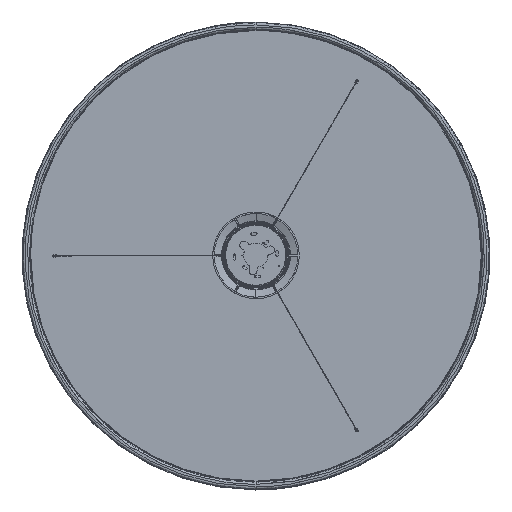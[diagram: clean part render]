
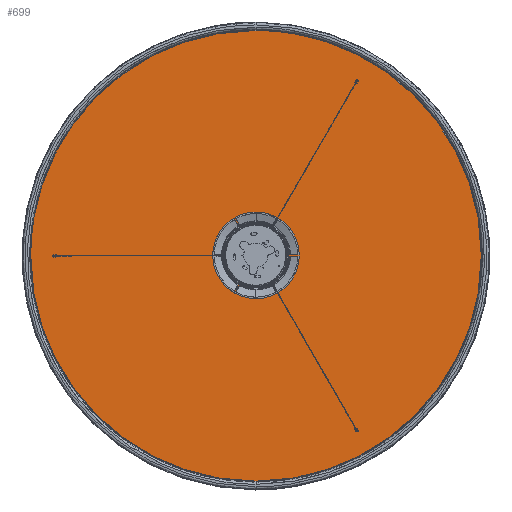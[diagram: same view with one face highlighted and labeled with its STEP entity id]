
A CAD part, top view. The second image highlights one B-rep face of the part: STEP entity #699.
In plain terms, the highlighted planar face has unit normal (0, 0, 1).
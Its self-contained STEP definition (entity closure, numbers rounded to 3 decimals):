
#122=FACE_BOUND('',#1954,.T.);
#123=FACE_BOUND('',#1955,.T.);
#124=FACE_BOUND('',#1956,.T.);
#699=ADVANCED_FACE('',(#1284,#122,#123,#124),#9223,.T.);
#1284=FACE_OUTER_BOUND('',#1953,.T.);
#1953=EDGE_LOOP('',(#4750,#4751,#4752,#4753));
#1954=EDGE_LOOP('',(#4754,#4755,#4756,#4757));
#1955=EDGE_LOOP('',(#4758,#4759,#4760,#4761));
#1956=EDGE_LOOP('',(#4762,#4763,#4764,#4765));
#4750=ORIENTED_EDGE('',*,*,#6244,.T.);
#4751=ORIENTED_EDGE('',*,*,#6274,.T.);
#4752=ORIENTED_EDGE('',*,*,#6245,.F.);
#4753=ORIENTED_EDGE('',*,*,#6248,.F.);
#4754=ORIENTED_EDGE('',*,*,#6257,.T.);
#4755=ORIENTED_EDGE('',*,*,#6260,.T.);
#4756=ORIENTED_EDGE('',*,*,#6250,.T.);
#4757=ORIENTED_EDGE('',*,*,#6253,.T.);
#4758=ORIENTED_EDGE('',*,*,#6234,.T.);
#4759=ORIENTED_EDGE('',*,*,#6237,.F.);
#4760=ORIENTED_EDGE('',*,*,#6241,.T.);
#4761=ORIENTED_EDGE('',*,*,#6238,.F.);
#4762=ORIENTED_EDGE('',*,*,#6269,.T.);
#4763=ORIENTED_EDGE('',*,*,#6272,.T.);
#4764=ORIENTED_EDGE('',*,*,#6263,.T.);
#4765=ORIENTED_EDGE('',*,*,#6266,.T.);
#6234=EDGE_CURVE('',#8626,#8625,#7723,.T.);
#6237=EDGE_CURVE('',#8627,#8625,#7006,.T.);
#6238=EDGE_CURVE('',#8626,#8628,#7007,.T.);
#6241=EDGE_CURVE('',#8627,#8628,#7725,.T.);
#6244=EDGE_CURVE('',#8634,#8642,#7728,.T.);
#6245=EDGE_CURVE('',#8640,#8633,#7729,.T.);
#6248=EDGE_CURVE('',#8634,#8640,#7731,.T.);
#6250=EDGE_CURVE('',#8630,#8631,#7733,.T.);
#6253=EDGE_CURVE('',#8631,#8632,#7012,.T.);
#6257=EDGE_CURVE('',#8632,#8629,#7735,.T.);
#6260=EDGE_CURVE('',#8629,#8630,#7017,.T.);
#6263=EDGE_CURVE('',#8636,#8637,#7737,.T.);
#6266=EDGE_CURVE('',#8637,#8638,#7021,.T.);
#6269=EDGE_CURVE('',#8638,#8635,#7739,.T.);
#6272=EDGE_CURVE('',#8635,#8636,#7025,.T.);
#6274=EDGE_CURVE('',#8642,#8633,#7740,.T.);
#7006=B_SPLINE_CURVE_WITH_KNOTS('',1,(#30126,#30127),.UNSPECIFIED.,.F.,
 .F.,(2,2),(-4.,0.),.UNSPECIFIED.);
#7007=B_SPLINE_CURVE_WITH_KNOTS('',1,(#30128,#30129),.UNSPECIFIED.,.F.,
 .F.,(2,2),(-4.,0.),.UNSPECIFIED.);
#7012=B_SPLINE_CURVE_WITH_KNOTS('',1,(#30176,#30177),.UNSPECIFIED.,.F.,
 .F.,(2,2),(0.,4.),.UNSPECIFIED.);
#7017=B_SPLINE_CURVE_WITH_KNOTS('',1,(#30196,#30197),.UNSPECIFIED.,.F.,
 .F.,(2,2),(0.,4.),.UNSPECIFIED.);
#7021=B_SPLINE_CURVE_WITH_KNOTS('',1,(#30214,#30215),.UNSPECIFIED.,.F.,
 .F.,(2,2),(0.,4.),.UNSPECIFIED.);
#7025=B_SPLINE_CURVE_WITH_KNOTS('',1,(#30232,#30233),.UNSPECIFIED.,.F.,
 .F.,(2,2),(0.,4.),.UNSPECIFIED.);
#7723=(
BOUNDED_CURVE()
B_SPLINE_CURVE(2,(#30117,#30118,#30119,#30120,#30121),.UNSPECIFIED.,.F.,
 .F.)
B_SPLINE_CURVE_WITH_KNOTS((3,2,3),(-7.854,-3.927,
0.),.UNSPECIFIED.)
CURVE()
GEOMETRIC_REPRESENTATION_ITEM()
RATIONAL_B_SPLINE_CURVE((1.,0.707,1.,0.707,1.))
REPRESENTATION_ITEM('')
);
#7725=(
BOUNDED_CURVE()
B_SPLINE_CURVE(2,(#30137,#30138,#30139,#30140,#30141),.UNSPECIFIED.,.F.,
 .F.)
B_SPLINE_CURVE_WITH_KNOTS((3,2,3),(-7.854,-3.927,
0.),.UNSPECIFIED.)
CURVE()
GEOMETRIC_REPRESENTATION_ITEM()
RATIONAL_B_SPLINE_CURVE((1.,0.707,1.,0.707,1.))
REPRESENTATION_ITEM('')
);
#7728=(
BOUNDED_CURVE()
B_SPLINE_CURVE(2,(#30148,#30149,#30150),.UNSPECIFIED.,.F.,.F.)
B_SPLINE_CURVE_WITH_KNOTS((3,3),(1471.836,2207.754),
 .UNSPECIFIED.)
CURVE()
GEOMETRIC_REPRESENTATION_ITEM()
RATIONAL_B_SPLINE_CURVE((1.,0.707,1.))
REPRESENTATION_ITEM('')
);
#7729=(
BOUNDED_CURVE()
B_SPLINE_CURVE(2,(#30151,#30152,#30153),.UNSPECIFIED.,.F.,.F.)
B_SPLINE_CURVE_WITH_KNOTS((3,3),(-735.918,0.),.UNSPECIFIED.)
CURVE()
GEOMETRIC_REPRESENTATION_ITEM()
RATIONAL_B_SPLINE_CURVE((1.,0.707,1.))
REPRESENTATION_ITEM('')
);
#7731=(
BOUNDED_CURVE()
B_SPLINE_CURVE(2,(#30159,#30160,#30161),.UNSPECIFIED.,.F.,.F.)
B_SPLINE_CURVE_WITH_KNOTS((3,3),(-1471.836,-735.918),
 .UNSPECIFIED.)
CURVE()
GEOMETRIC_REPRESENTATION_ITEM()
RATIONAL_B_SPLINE_CURVE((1.,0.707,1.))
REPRESENTATION_ITEM('')
);
#7733=(
BOUNDED_CURVE()
B_SPLINE_CURVE(2,(#30167,#30168,#30169,#30170,#30171),.UNSPECIFIED.,.F.,
 .F.)
B_SPLINE_CURVE_WITH_KNOTS((3,2,3),(-7.854,-3.927,
0.),.UNSPECIFIED.)
CURVE()
GEOMETRIC_REPRESENTATION_ITEM()
RATIONAL_B_SPLINE_CURVE((1.,0.707,1.,0.707,1.))
REPRESENTATION_ITEM('')
);
#7735=(
BOUNDED_CURVE()
B_SPLINE_CURVE(2,(#30187,#30188,#30189,#30190,#30191),.UNSPECIFIED.,.F.,
 .F.)
B_SPLINE_CURVE_WITH_KNOTS((3,2,3),(-7.854,-3.927,
0.),.UNSPECIFIED.)
CURVE()
GEOMETRIC_REPRESENTATION_ITEM()
RATIONAL_B_SPLINE_CURVE((1.,0.707,1.,0.707,1.))
REPRESENTATION_ITEM('')
);
#7737=(
BOUNDED_CURVE()
B_SPLINE_CURVE(2,(#30205,#30206,#30207,#30208,#30209),.UNSPECIFIED.,.F.,
 .F.)
B_SPLINE_CURVE_WITH_KNOTS((3,2,3),(-7.854,-3.927,
0.),.UNSPECIFIED.)
CURVE()
GEOMETRIC_REPRESENTATION_ITEM()
RATIONAL_B_SPLINE_CURVE((1.,0.707,1.,0.707,1.))
REPRESENTATION_ITEM('')
);
#7739=(
BOUNDED_CURVE()
B_SPLINE_CURVE(2,(#30223,#30224,#30225,#30226,#30227),.UNSPECIFIED.,.F.,
 .F.)
B_SPLINE_CURVE_WITH_KNOTS((3,2,3),(-7.854,-3.927,
0.),.UNSPECIFIED.)
CURVE()
GEOMETRIC_REPRESENTATION_ITEM()
RATIONAL_B_SPLINE_CURVE((1.,0.707,1.,0.707,1.))
REPRESENTATION_ITEM('')
);
#7740=(
BOUNDED_CURVE()
B_SPLINE_CURVE(2,(#30236,#30237,#30238),.UNSPECIFIED.,.F.,.F.)
B_SPLINE_CURVE_WITH_KNOTS((3,3),(2207.754,2943.672),
 .UNSPECIFIED.)
CURVE()
GEOMETRIC_REPRESENTATION_ITEM()
RATIONAL_B_SPLINE_CURVE((1.,0.707,1.))
REPRESENTATION_ITEM('')
);
#8625=VERTEX_POINT('',#30088);
#8626=VERTEX_POINT('',#30089);
#8627=VERTEX_POINT('',#30090);
#8628=VERTEX_POINT('',#30091);
#8629=VERTEX_POINT('',#30092);
#8630=VERTEX_POINT('',#30093);
#8631=VERTEX_POINT('',#30094);
#8632=VERTEX_POINT('',#30095);
#8633=VERTEX_POINT('',#30096);
#8634=VERTEX_POINT('',#30097);
#8635=VERTEX_POINT('',#30098);
#8636=VERTEX_POINT('',#30099);
#8637=VERTEX_POINT('',#30100);
#8638=VERTEX_POINT('',#30101);
#8640=VERTEX_POINT('',#30103);
#8642=VERTEX_POINT('',#30105);
#9223=PLANE('',#9485);
#9485=AXIS2_PLACEMENT_3D('',#29977,#9663,$);
#9663=DIRECTION('',(0.,0.,1.));
#29977=CARTESIAN_POINT('',(562.212,558.012,234.2));
#30088=CARTESIAN_POINT('',(-420.,-1.7,234.2));
#30089=CARTESIAN_POINT('',(-420.,-6.7,234.2));
#30090=CARTESIAN_POINT('',(-416.,-1.7,234.2));
#30091=CARTESIAN_POINT('',(-416.,-6.7,234.2));
#30092=CARTESIAN_POINT('',(207.835,-369.181,234.2));
#30093=CARTESIAN_POINT('',(205.835,-365.717,234.2));
#30094=CARTESIAN_POINT('',(210.165,-363.217,234.2));
#30095=CARTESIAN_POINT('',(212.165,-366.681,234.2));
#30096=CARTESIAN_POINT('',(-468.5,-4.2,234.2));
#30097=CARTESIAN_POINT('',(468.5,-4.2,234.2));
#30098=CARTESIAN_POINT('',(212.165,358.281,234.2));
#30099=CARTESIAN_POINT('',(210.165,354.817,234.2));
#30100=CARTESIAN_POINT('',(205.835,357.317,234.2));
#30101=CARTESIAN_POINT('',(207.835,360.781,234.2));
#30103=CARTESIAN_POINT('',(0.,-472.7,234.2));
#30105=CARTESIAN_POINT('',(0.,464.3,234.2));
#30117=CARTESIAN_POINT('',(-420.,-6.7,234.2));
#30118=CARTESIAN_POINT('',(-422.5,-6.7,234.2));
#30119=CARTESIAN_POINT('',(-422.5,-4.2,234.2));
#30120=CARTESIAN_POINT('',(-422.5,-1.7,234.2));
#30121=CARTESIAN_POINT('',(-420.,-1.7,234.2));
#30126=CARTESIAN_POINT('',(-416.,-1.7,234.2));
#30127=CARTESIAN_POINT('',(-420.,-1.7,234.2));
#30128=CARTESIAN_POINT('',(-420.,-6.7,234.2));
#30129=CARTESIAN_POINT('',(-416.,-6.7,234.2));
#30137=CARTESIAN_POINT('',(-416.,-1.7,234.2));
#30138=CARTESIAN_POINT('',(-413.5,-1.7,234.2));
#30139=CARTESIAN_POINT('',(-413.5,-4.2,234.2));
#30140=CARTESIAN_POINT('',(-413.5,-6.7,234.2));
#30141=CARTESIAN_POINT('',(-416.,-6.7,234.2));
#30148=CARTESIAN_POINT('',(468.5,-4.2,234.2));
#30149=CARTESIAN_POINT('',(468.5,464.3,234.2));
#30150=CARTESIAN_POINT('',(0.,464.3,234.2));
#30151=CARTESIAN_POINT('',(0.,-472.7,234.2));
#30152=CARTESIAN_POINT('',(-468.5,-472.7,234.2));
#30153=CARTESIAN_POINT('',(-468.5,-4.2,234.2));
#30159=CARTESIAN_POINT('',(468.5,-4.2,234.2));
#30160=CARTESIAN_POINT('',(468.5,-472.7,234.2));
#30161=CARTESIAN_POINT('',(0.,-472.7,234.2));
#30167=CARTESIAN_POINT('',(205.835,-365.717,234.2));
#30168=CARTESIAN_POINT('',(204.585,-363.552,234.2));
#30169=CARTESIAN_POINT('',(206.75,-362.302,234.2));
#30170=CARTESIAN_POINT('',(208.915,-361.052,234.2));
#30171=CARTESIAN_POINT('',(210.165,-363.217,234.2));
#30176=CARTESIAN_POINT('',(210.165,-363.217,234.2));
#30177=CARTESIAN_POINT('',(212.165,-366.681,234.2));
#30187=CARTESIAN_POINT('',(212.165,-366.681,234.2));
#30188=CARTESIAN_POINT('',(213.415,-368.846,234.2));
#30189=CARTESIAN_POINT('',(211.25,-370.096,234.2));
#30190=CARTESIAN_POINT('',(209.085,-371.346,234.2));
#30191=CARTESIAN_POINT('',(207.835,-369.181,234.2));
#30196=CARTESIAN_POINT('',(207.835,-369.181,234.2));
#30197=CARTESIAN_POINT('',(205.835,-365.717,234.2));
#30205=CARTESIAN_POINT('',(210.165,354.817,234.2));
#30206=CARTESIAN_POINT('',(208.915,352.652,234.2));
#30207=CARTESIAN_POINT('',(206.75,353.902,234.2));
#30208=CARTESIAN_POINT('',(204.585,355.152,234.2));
#30209=CARTESIAN_POINT('',(205.835,357.317,234.2));
#30214=CARTESIAN_POINT('',(205.835,357.317,234.2));
#30215=CARTESIAN_POINT('',(207.835,360.781,234.2));
#30223=CARTESIAN_POINT('',(207.835,360.781,234.2));
#30224=CARTESIAN_POINT('',(209.085,362.946,234.2));
#30225=CARTESIAN_POINT('',(211.25,361.696,234.2));
#30226=CARTESIAN_POINT('',(213.415,360.446,234.2));
#30227=CARTESIAN_POINT('',(212.165,358.281,234.2));
#30232=CARTESIAN_POINT('',(212.165,358.281,234.2));
#30233=CARTESIAN_POINT('',(210.165,354.817,234.2));
#30236=CARTESIAN_POINT('',(0.,464.3,234.2));
#30237=CARTESIAN_POINT('',(-468.5,464.3,234.2));
#30238=CARTESIAN_POINT('',(-468.5,-4.2,234.2));
